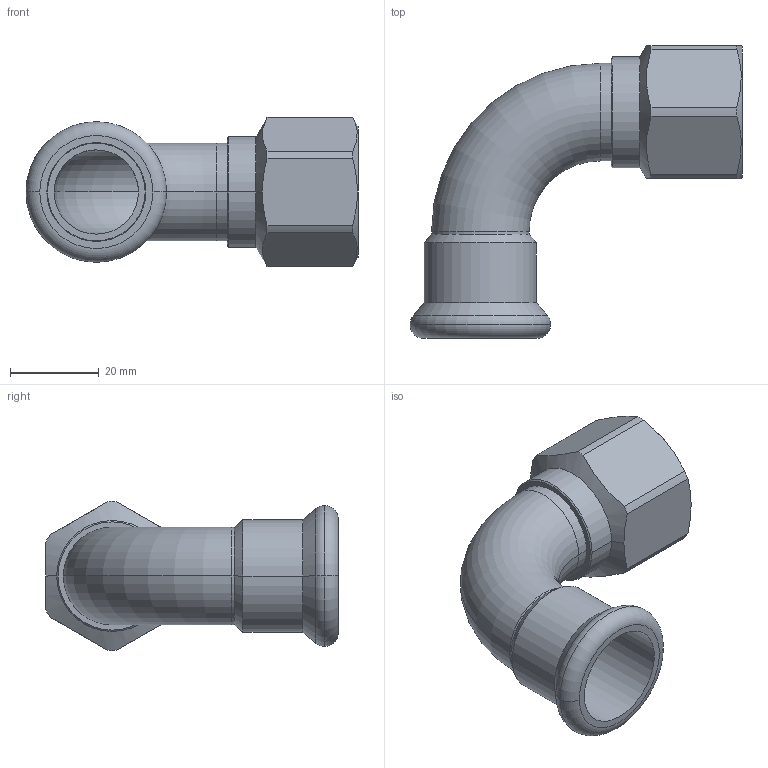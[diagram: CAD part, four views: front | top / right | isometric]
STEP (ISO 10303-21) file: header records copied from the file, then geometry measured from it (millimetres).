
FILE_DESCRIPTION(('CoCreate Modeling STEP Export'),'2;1');
FILE_NAME('C1438 22xRp3-4.stp','2014-11-12T16:36:05',(''),(''),'CoCreate Modeling STEP processor for AP214 (Solid Model)','CoCreate Modeling 17.00A 17-Jun-2010 (C) Parametric Technology GmbH','');
FILE_SCHEMA(('AUTOMOTIVE_DESIGN { 1 0 10303 214 1 1 1 1 }'));
Length unit declared in the file: millimetre
Products named in the file (2): C1438_22xRp3-4
Assembly tree (1 placements, depth 2):
  C1438_22xRp3-4
    C1438_22xRp3-4
Bounding box: 74.85 x 66 x 33.59 mm (x, y, z)
Volume: 17509.5 mm3; surface area: 15652.5 mm2
Topology: 1 solids, 1 shells, 62 faces, 142 edges, 86 vertices
Faces by surface type: cylinder 26, cone 16, plane 12, torus 8
Entity records: 2360 total; most frequent: CARTESIAN_POINT 1131, ORIENTED_EDGE 284, DIRECTION 198, EDGE_CURVE 142, VERTEX_POINT 86, AXIS2_PLACEMENT_3D 75, EDGE_LOOP 68, FACE_OUTER_BOUND 62
